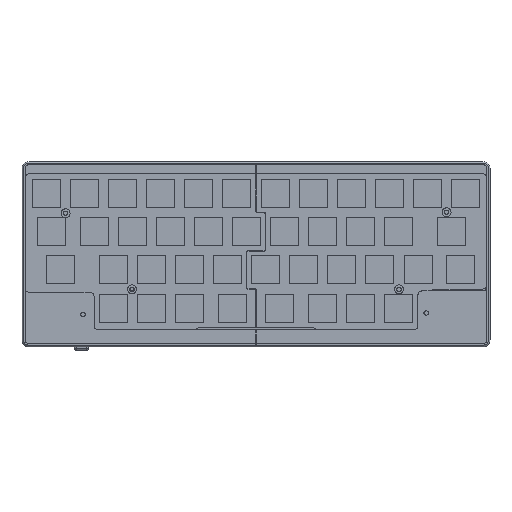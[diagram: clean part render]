
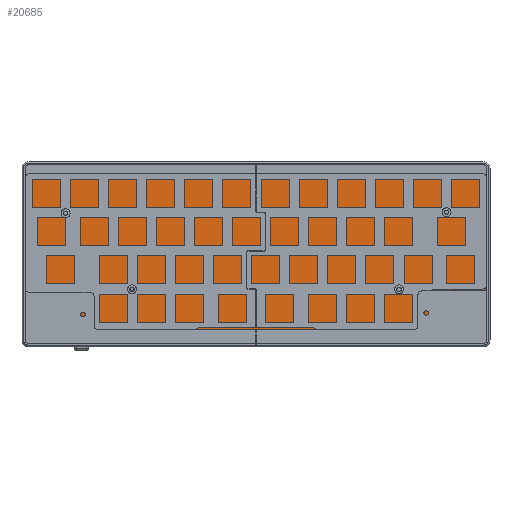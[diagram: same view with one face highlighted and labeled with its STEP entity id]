
A CAD part, top view. The second image highlights one B-rep face of the part: STEP entity #20685.
In plain terms, the highlighted planar face has unit normal (0, 0, 1).
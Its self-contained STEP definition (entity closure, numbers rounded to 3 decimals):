
#585=FACE_BOUND('',#2821,.T.);
#586=FACE_BOUND('',#2822,.T.);
#587=FACE_BOUND('',#2823,.T.);
#588=FACE_BOUND('',#2824,.T.);
#885=PLANE('',#22007);
#1605=FACE_OUTER_BOUND('',#2820,.T.);
#2820=EDGE_LOOP('',(#14296,#14297,#14298,#14299,#14300,#14301,#14302,#14303));
#2821=EDGE_LOOP('',(#14304));
#2822=EDGE_LOOP('',(#14305));
#2823=EDGE_LOOP('',(#14306));
#2824=EDGE_LOOP('',(#14307));
#4325=LINE('',#29315,#6437);
#4329=LINE('',#29327,#6441);
#4333=LINE('',#29339,#6445);
#4337=LINE('',#29351,#6449);
#6437=VECTOR('',#23745,10.);
#6441=VECTOR('',#23757,10.);
#6445=VECTOR('',#23769,10.);
#6449=VECTOR('',#23781,10.);
#8544=CIRCLE('',#21981,1.25);
#8546=CIRCLE('',#21984,1.25);
#8548=CIRCLE('',#21987,1.25);
#8550=CIRCLE('',#21990,1.25);
#8552=CIRCLE('',#21994,2.);
#8554=CIRCLE('',#21998,2.);
#8556=CIRCLE('',#22002,2.);
#8558=CIRCLE('',#22006,2.);
#9204=VERTEX_POINT('',#29287);
#9206=VERTEX_POINT('',#29293);
#9208=VERTEX_POINT('',#29299);
#9210=VERTEX_POINT('',#29305);
#9213=VERTEX_POINT('',#29312);
#9214=VERTEX_POINT('',#29314);
#9216=VERTEX_POINT('',#29320);
#9218=VERTEX_POINT('',#29326);
#9220=VERTEX_POINT('',#29332);
#9222=VERTEX_POINT('',#29338);
#9224=VERTEX_POINT('',#29344);
#9226=VERTEX_POINT('',#29350);
#11190=EDGE_CURVE('',#9204,#9204,#8544,.T.);
#11193=EDGE_CURVE('',#9206,#9206,#8546,.T.);
#11196=EDGE_CURVE('',#9208,#9208,#8548,.T.);
#11199=EDGE_CURVE('',#9210,#9210,#8550,.T.);
#11202=EDGE_CURVE('',#9214,#9213,#4325,.T.);
#11205=EDGE_CURVE('',#9216,#9214,#8552,.T.);
#11208=EDGE_CURVE('',#9218,#9216,#4329,.T.);
#11211=EDGE_CURVE('',#9220,#9218,#8554,.T.);
#11214=EDGE_CURVE('',#9222,#9220,#4333,.T.);
#11217=EDGE_CURVE('',#9224,#9222,#8556,.T.);
#11220=EDGE_CURVE('',#9226,#9224,#4337,.T.);
#11223=EDGE_CURVE('',#9213,#9226,#8558,.T.);
#14296=ORIENTED_EDGE('',*,*,#11223,.T.);
#14297=ORIENTED_EDGE('',*,*,#11220,.T.);
#14298=ORIENTED_EDGE('',*,*,#11217,.T.);
#14299=ORIENTED_EDGE('',*,*,#11214,.T.);
#14300=ORIENTED_EDGE('',*,*,#11211,.T.);
#14301=ORIENTED_EDGE('',*,*,#11208,.T.);
#14302=ORIENTED_EDGE('',*,*,#11205,.T.);
#14303=ORIENTED_EDGE('',*,*,#11202,.T.);
#14304=ORIENTED_EDGE('',*,*,#11190,.T.);
#14305=ORIENTED_EDGE('',*,*,#11193,.T.);
#14306=ORIENTED_EDGE('',*,*,#11196,.T.);
#14307=ORIENTED_EDGE('',*,*,#11199,.T.);
#20685=ADVANCED_FACE('',(#1605,#585,#586,#587,#588),#885,.T.);
#21981=AXIS2_PLACEMENT_3D('',#29289,#23718,#23719);
#21984=AXIS2_PLACEMENT_3D('',#29295,#23725,#23726);
#21987=AXIS2_PLACEMENT_3D('',#29301,#23732,#23733);
#21990=AXIS2_PLACEMENT_3D('',#29307,#23739,#23740);
#21994=AXIS2_PLACEMENT_3D('',#29321,#23751,#23752);
#21998=AXIS2_PLACEMENT_3D('',#29333,#23763,#23764);
#22002=AXIS2_PLACEMENT_3D('',#29345,#23775,#23776);
#22006=AXIS2_PLACEMENT_3D('',#29355,#23787,#23788);
#22007=AXIS2_PLACEMENT_3D('',#29356,#23789,#23790);
#23718=DIRECTION('center_axis',(0.,0.,-1.));
#23719=DIRECTION('ref_axis',(1.,0.,0.));
#23725=DIRECTION('center_axis',(0.,0.,-1.));
#23726=DIRECTION('ref_axis',(1.,0.,0.));
#23732=DIRECTION('center_axis',(0.,0.,-1.));
#23733=DIRECTION('ref_axis',(1.,0.,0.));
#23739=DIRECTION('center_axis',(0.,0.,-1.));
#23740=DIRECTION('ref_axis',(1.,0.,0.));
#23745=DIRECTION('',(-1.,0.,0.));
#23751=DIRECTION('center_axis',(0.,0.,1.));
#23752=DIRECTION('ref_axis',(1.,0.,0.));
#23757=DIRECTION('',(0.,1.,0.));
#23763=DIRECTION('center_axis',(0.,0.,1.));
#23764=DIRECTION('ref_axis',(0.,-1.,0.));
#23769=DIRECTION('',(1.,0.,0.));
#23775=DIRECTION('center_axis',(0.,0.,1.));
#23776=DIRECTION('ref_axis',(-1.,0.,0.));
#23781=DIRECTION('',(0.,-1.,0.));
#23787=DIRECTION('center_axis',(0.,0.,1.));
#23788=DIRECTION('ref_axis',(0.,1.,0.));
#23789=DIRECTION('center_axis',(0.,0.,1.));
#23790=DIRECTION('ref_axis',(1.,0.,0.));
#29287=CARTESIAN_POINT('',(86.509,-107.997,8.2));
#29289=CARTESIAN_POINT('Origin',(87.759,-107.997,8.2));
#29293=CARTESIAN_POINT('',(220.,-108.,8.2));
#29295=CARTESIAN_POINT('Origin',(221.25,-108.,8.2));
#29299=CARTESIAN_POINT('',(53.3,-70.,8.2));
#29301=CARTESIAN_POINT('Origin',(54.55,-70.,8.2));
#29305=CARTESIAN_POINT('',(243.75,-69.5,8.2));
#29307=CARTESIAN_POINT('Origin',(245.,-69.5,8.2));
#29312=CARTESIAN_POINT('',(36.475,-49.725,8.2));
#29314=CARTESIAN_POINT('',(263.025,-49.725,8.2));
#29315=CARTESIAN_POINT('',(36.475,-49.725,8.2));
#29320=CARTESIAN_POINT('',(265.025,-51.725,8.2));
#29321=CARTESIAN_POINT('Origin',(263.025,-51.725,8.2));
#29326=CARTESIAN_POINT('',(265.025,-129.325,8.2));
#29327=CARTESIAN_POINT('',(265.025,-129.325,8.2));
#29332=CARTESIAN_POINT('',(263.025,-131.325,8.2));
#29333=CARTESIAN_POINT('Origin',(263.025,-129.325,8.2));
#29338=CARTESIAN_POINT('',(36.475,-131.325,8.2));
#29339=CARTESIAN_POINT('',(36.475,-131.325,8.2));
#29344=CARTESIAN_POINT('',(34.475,-129.325,8.2));
#29345=CARTESIAN_POINT('Origin',(36.475,-129.325,8.2));
#29350=CARTESIAN_POINT('',(34.475,-51.725,8.2));
#29351=CARTESIAN_POINT('',(34.475,-51.725,8.2));
#29355=CARTESIAN_POINT('Origin',(36.475,-51.725,8.2));
#29356=CARTESIAN_POINT('Origin',(149.75,-90.525,8.2));
